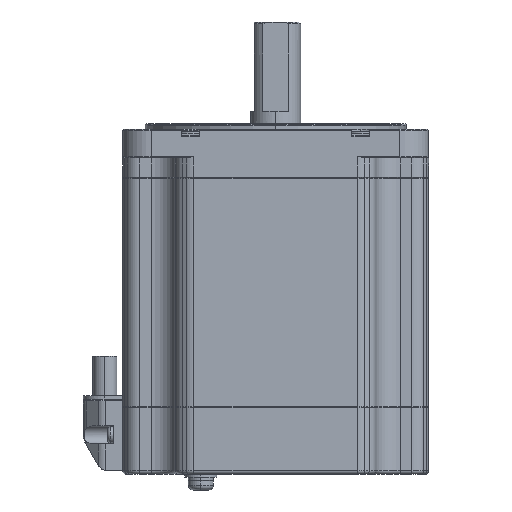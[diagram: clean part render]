
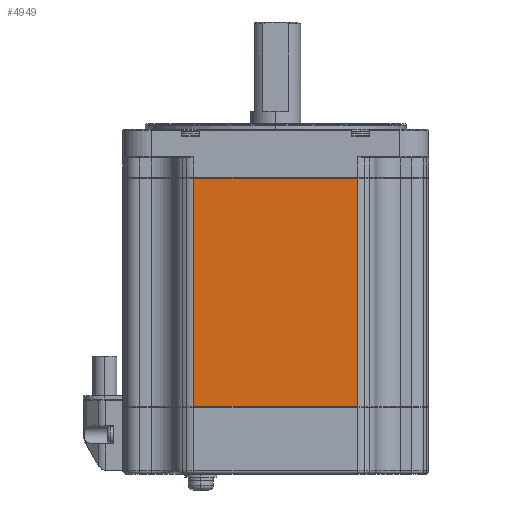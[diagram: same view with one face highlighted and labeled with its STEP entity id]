
A CAD part, left-side view. The second image highlights one B-rep face of the part: STEP entity #4949.
In plain terms, the highlighted planar face has unit normal (-1, 0, 0).
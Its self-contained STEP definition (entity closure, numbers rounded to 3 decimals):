
#861 = LINE ( 'NONE', #11783, #3375 ) ;
#862 = LINE ( 'NONE', #11778, #3378 ) ;
#863 = LINE ( 'NONE', #11776, #3381 ) ;
#864 = LINE ( 'NONE', #11774, #3382 ) ;
#3375 = VECTOR ( 'NONE', #11784, 1000. ) ;
#3378 = VECTOR ( 'NONE', #11779, 1000. ) ;
#3381 = VECTOR ( 'NONE', #11777, 1000. ) ;
#3382 = VECTOR ( 'NONE', #11775, 1000. ) ;
#4949 = ADVANCED_FACE ( 'NONE', ( #13102 ), #20278, .F. ) ;
#6987 = EDGE_LOOP ( 'NONE', ( #9577, #9575, #9576, #9574 ) ) ;
#7383 = VERTEX_POINT ( 'NONE', #22739 ) ;
#7415 = VERTEX_POINT ( 'NONE', #22771 ) ;
#7439 = VERTEX_POINT ( 'NONE', #22795 ) ;
#7441 = VERTEX_POINT ( 'NONE', #22797 ) ;
#9574 = ORIENTED_EDGE ( 'NONE', *, *, #10254, .T. ) ;
#9575 = ORIENTED_EDGE ( 'NONE', *, *, #10256, .T. ) ;
#9576 = ORIENTED_EDGE ( 'NONE', *, *, #10258, .T. ) ;
#9577 = ORIENTED_EDGE ( 'NONE', *, *, #10255, .F. ) ;
#10254 = EDGE_CURVE ( 'NONE', #7439, #7441, #864, .T. ) ;
#10255 = EDGE_CURVE ( 'NONE', #7415, #7441, #863, .T. ) ;
#10256 = EDGE_CURVE ( 'NONE', #7415, #7383, #862, .T. ) ;
#10258 = EDGE_CURVE ( 'NONE', #7383, #7439, #861, .T. ) ;
#11774 = CARTESIAN_POINT ( 'NONE',  ( -42.75, 22.879, -13.7 ) ) ;
#11775 = DIRECTION ( 'NONE',  ( 0., 1., 0. ) ) ;
#11776 = CARTESIAN_POINT ( 'NONE',  ( -42.75, 22.879, -77.75 ) ) ;
#11777 = DIRECTION ( 'NONE',  ( 0., 0., 1. ) ) ;
#11778 = CARTESIAN_POINT ( 'NONE',  ( -42.75, 22.879, -77.55 ) ) ;
#11779 = DIRECTION ( 'NONE',  ( 0., -1., 0. ) ) ;
#11783 = CARTESIAN_POINT ( 'NONE',  ( -42.75, -22.879, -77.75 ) ) ;
#11784 = DIRECTION ( 'NONE',  ( 0., 0., 1. ) ) ;
#13102 = FACE_OUTER_BOUND ( 'NONE', #6987, .T. ) ;
#20278 = PLANE ( 'NONE',  #21359 ) ;
#20279 = CARTESIAN_POINT ( 'NONE',  ( -42.75, 22.879, -77.75 ) ) ;
#20280 = DIRECTION ( 'NONE',  ( 1., 0., 0. ) ) ;
#20281 = DIRECTION ( 'NONE',  ( 0., 0., -1. ) ) ;
#21359 = AXIS2_PLACEMENT_3D ( 'NONE', #20279, #20280, #20281 ) ;
#22739 = CARTESIAN_POINT ( 'NONE',  ( -42.75, -22.879, -77.55 ) ) ;
#22771 = CARTESIAN_POINT ( 'NONE',  ( -42.75, 22.879, -77.55 ) ) ;
#22795 = CARTESIAN_POINT ( 'NONE',  ( -42.75, -22.879, -13.7 ) ) ;
#22797 = CARTESIAN_POINT ( 'NONE',  ( -42.75, 22.879, -13.7 ) ) ;
